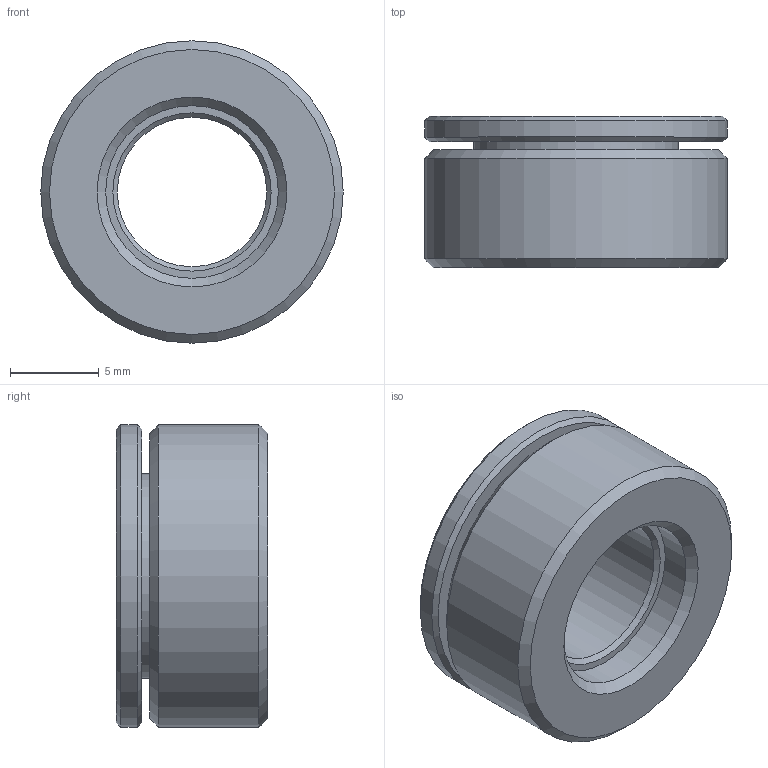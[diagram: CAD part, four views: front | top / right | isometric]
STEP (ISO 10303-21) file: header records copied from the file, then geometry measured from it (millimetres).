
FILE_DESCRIPTION( ( 'STEP AP203' ), '1' );
FILE_NAME( 'C:/Temp/Ganter_Step_05_03_2020/data/3_2/gn6319_1/gn_6319_1_st/Spherical washer GN 6319.1-17-ST.stp', '2020-03-13T05:32:15', ( 'License CC BY-ND 4.0' ), ( 'CADENAS' ), ' ', 'PARTsolutions', ' ' );
FILE_SCHEMA( ( 'CONFIG_CONTROL_DESIGN' ) );
Length unit declared in the file: millimetre
Products named in the file (1): _Spherical washer GN 6319.1-17-ST
Bounding box: 17 x 8.5 x 17 mm (x, y, z)
Volume: 1168.5 mm3; surface area: 1539.9 mm2
Topology: 1 solids, 1 shells, 23 faces, 39 edges, 23 vertices
Faces by surface type: cone 9, cylinder 7, plane 7
Full cylindrical faces by diameter (mm): 8.4 x1, 9.7 x1, 11.53 x1, 13.35 x1, 15.46 x1, 17 x2
Entity records: 512 total; most frequent: DIRECTION 94, CARTESIAN_POINT 70, AXIS2_PLACEMENT_3D 47, EDGE_LOOP 46, ORIENTED_EDGE 46, FACE_OUTER_BOUND 30, ADVANCED_FACE 23, EDGE_CURVE 23
